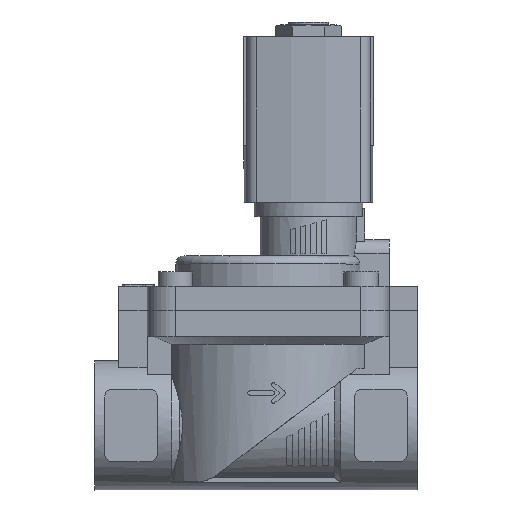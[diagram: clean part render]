
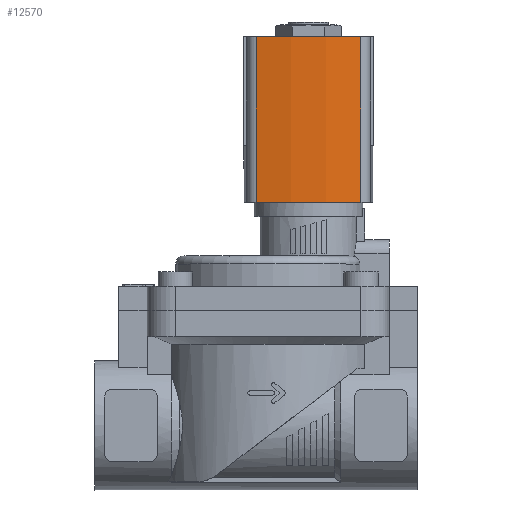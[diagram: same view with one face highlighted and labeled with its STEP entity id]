
A CAD part, top view. The second image highlights one B-rep face of the part: STEP entity #12570.
In plain terms, the highlighted cylindrical face has radius 60 mm (diameter 120 mm), a partial arc.
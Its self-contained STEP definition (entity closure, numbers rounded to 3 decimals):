
#243=CYLINDRICAL_SURFACE('',#13430,60.);
#1222=LINE('',#19262,#2286);
#1223=LINE('',#19266,#2287);
#2286=VECTOR('',#15947,1000.);
#2287=VECTOR('',#15952,1000.);
#4621=ORIENTED_EDGE('',*,*,#6623,.T.);
#4622=ORIENTED_EDGE('',*,*,#6624,.F.);
#4623=ORIENTED_EDGE('',*,*,#5909,.F.);
#4624=ORIENTED_EDGE('',*,*,#6622,.T.);
#5909=EDGE_CURVE('',#7160,#7161,#7886,.T.);
#6622=EDGE_CURVE('',#7160,#7666,#1222,.T.);
#6623=EDGE_CURVE('',#7666,#7667,#7980,.T.);
#6624=EDGE_CURVE('',#7161,#7667,#1223,.T.);
#7160=VERTEX_POINT('',#17916);
#7161=VERTEX_POINT('',#17918);
#7666=VERTEX_POINT('',#19261);
#7667=VERTEX_POINT('',#19265);
#7886=CIRCLE('',#13210,60.);
#7980=CIRCLE('',#13431,60.);
#8411=EDGE_LOOP('',(#4621,#4622,#4623,#4624));
#8997=FACE_BOUND('',#8411,.T.);
#12570=ADVANCED_FACE('',(#8997),#243,.T.);
#13210=AXIS2_PLACEMENT_3D('',#17917,#14888,#14889);
#13430=AXIS2_PLACEMENT_3D('',#19263,#15948,#15949);
#13431=AXIS2_PLACEMENT_3D('',#19264,#15950,#15951);
#14888=DIRECTION('',(0.,1.,0.));
#14889=DIRECTION('',(1.,0.,0.));
#15947=DIRECTION('',(0.,-1.,0.));
#15948=DIRECTION('',(0.,-1.,0.));
#15949=DIRECTION('',(0.,0.,-1.));
#15950=DIRECTION('',(0.,1.,0.));
#15951=DIRECTION('',(1.,0.,0.));
#15952=DIRECTION('',(0.,-1.,0.));
#17916=CARTESIAN_POINT('',(19.078,15.,12.986));
#17917=CARTESIAN_POINT('',(-39.5,15.,0.));
#17918=CARTESIAN_POINT('',(19.078,15.,-12.986));
#19261=CARTESIAN_POINT('',(19.078,-26.,12.986));
#19262=CARTESIAN_POINT('',(19.078,15.,12.986));
#19263=CARTESIAN_POINT('',(-39.5,15.,0.));
#19264=CARTESIAN_POINT('',(-39.5,-26.,0.));
#19265=CARTESIAN_POINT('',(19.078,-26.,-12.986));
#19266=CARTESIAN_POINT('',(19.078,15.,-12.986));
